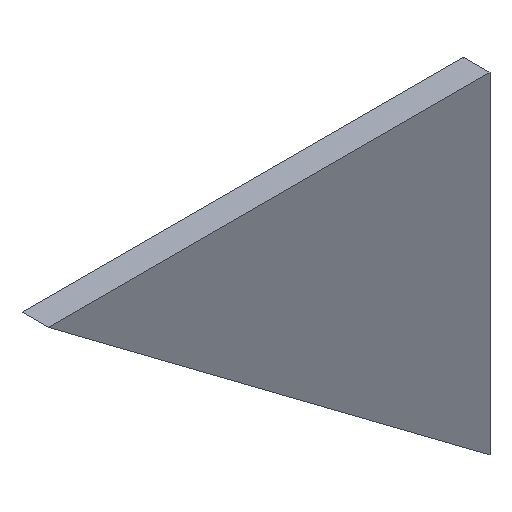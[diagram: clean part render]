
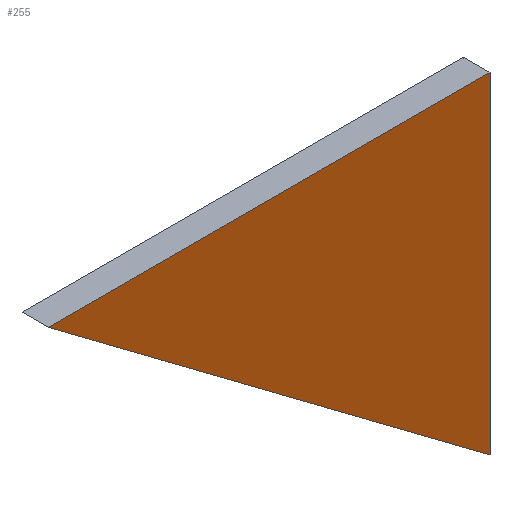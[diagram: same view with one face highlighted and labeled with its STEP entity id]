
A CAD part, isometric view. The second image highlights one B-rep face of the part: STEP entity #255.
In plain terms, the highlighted planar face has unit normal (0, -1, 0).
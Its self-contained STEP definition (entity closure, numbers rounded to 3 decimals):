
#22 = VERTEX_POINT('',#23);
#23 = CARTESIAN_POINT('',(1533.,-1876.,3094.));
#32 = PLANE('',#33);
#33 = AXIS2_PLACEMENT_3D('',#34,#35,#36);
#34 = CARTESIAN_POINT('',(1533.,-1876.,3094.));
#35 = DIRECTION('',(0.,0.,-1.));
#36 = DIRECTION('',(1.,0.,0.));
#44 = PLANE('',#45);
#45 = AXIS2_PLACEMENT_3D('',#46,#47,#48);
#46 = CARTESIAN_POINT('',(1733.,-1876.,2944.));
#47 = DIRECTION('',(0.6,-0.,0.8));
#48 = DIRECTION('',(-0.8,0.,0.6));
#85 = VERTEX_POINT('',#86);
#86 = CARTESIAN_POINT('',(1733.,-1876.,3094.));
#100 = PLANE('',#101);
#101 = AXIS2_PLACEMENT_3D('',#102,#103,#104);
#102 = CARTESIAN_POINT('',(1733.,-1876.,3094.));
#103 = DIRECTION('',(-1.,0.,0.));
#104 = DIRECTION('',(0.,0.,-1.));
#112 = EDGE_CURVE('',#22,#85,#113,.T.);
#113 = SURFACE_CURVE('',#114,(#118,#125),.PCURVE_S1.);
#114 = LINE('',#115,#116);
#115 = CARTESIAN_POINT('',(1533.,-1876.,3094.));
#116 = VECTOR('',#117,1.);
#117 = DIRECTION('',(1.,0.,0.));
#118 = PCURVE('',#32,#119);
#119 = DEFINITIONAL_REPRESENTATION('',(#120),#124);
#120 = LINE('',#121,#122);
#121 = CARTESIAN_POINT('',(0.,0.));
#122 = VECTOR('',#123,1.);
#123 = DIRECTION('',(1.,0.));
#124 = ( GEOMETRIC_REPRESENTATION_CONTEXT(2) 
PARAMETRIC_REPRESENTATION_CONTEXT() REPRESENTATION_CONTEXT('2D SPACE',''
  ) );
#125 = PCURVE('',#126,#131);
#126 = PLANE('',#127);
#127 = AXIS2_PLACEMENT_3D('',#128,#129,#130);
#128 = CARTESIAN_POINT('',(1658.,-1876.,3044.));
#129 = DIRECTION('',(0.,1.,0.));
#130 = DIRECTION('',(0.,-0.,1.));
#131 = DEFINITIONAL_REPRESENTATION('',(#132),#136);
#132 = LINE('',#133,#134);
#133 = CARTESIAN_POINT('',(50.,-125.));
#134 = VECTOR('',#135,1.);
#135 = DIRECTION('',(0.,1.));
#136 = ( GEOMETRIC_REPRESENTATION_CONTEXT(2) 
PARAMETRIC_REPRESENTATION_CONTEXT() REPRESENTATION_CONTEXT('2D SPACE',''
  ) );
#166 = VERTEX_POINT('',#167);
#167 = CARTESIAN_POINT('',(1733.,-1876.,2944.));
#188 = EDGE_CURVE('',#85,#166,#189,.T.);
#189 = SURFACE_CURVE('',#190,(#194,#201),.PCURVE_S1.);
#190 = LINE('',#191,#192);
#191 = CARTESIAN_POINT('',(1733.,-1876.,3094.));
#192 = VECTOR('',#193,1.);
#193 = DIRECTION('',(0.,0.,-1.));
#194 = PCURVE('',#100,#195);
#195 = DEFINITIONAL_REPRESENTATION('',(#196),#200);
#196 = LINE('',#197,#198);
#197 = CARTESIAN_POINT('',(0.,-0.));
#198 = VECTOR('',#199,1.);
#199 = DIRECTION('',(1.,0.));
#200 = ( GEOMETRIC_REPRESENTATION_CONTEXT(2) 
PARAMETRIC_REPRESENTATION_CONTEXT() REPRESENTATION_CONTEXT('2D SPACE',''
  ) );
#201 = PCURVE('',#126,#202);
#202 = DEFINITIONAL_REPRESENTATION('',(#203),#207);
#203 = LINE('',#204,#205);
#204 = CARTESIAN_POINT('',(50.,75.));
#205 = VECTOR('',#206,1.);
#206 = DIRECTION('',(-1.,0.));
#207 = ( GEOMETRIC_REPRESENTATION_CONTEXT(2) 
PARAMETRIC_REPRESENTATION_CONTEXT() REPRESENTATION_CONTEXT('2D SPACE',''
  ) );
#235 = EDGE_CURVE('',#166,#22,#236,.T.);
#236 = SURFACE_CURVE('',#237,(#241,#248),.PCURVE_S1.);
#237 = LINE('',#238,#239);
#238 = CARTESIAN_POINT('',(1733.,-1876.,2944.));
#239 = VECTOR('',#240,1.);
#240 = DIRECTION('',(-0.8,0.,0.6));
#241 = PCURVE('',#44,#242);
#242 = DEFINITIONAL_REPRESENTATION('',(#243),#247);
#243 = LINE('',#244,#245);
#244 = CARTESIAN_POINT('',(0.,0.));
#245 = VECTOR('',#246,1.);
#246 = DIRECTION('',(1.,0.));
#247 = ( GEOMETRIC_REPRESENTATION_CONTEXT(2) 
PARAMETRIC_REPRESENTATION_CONTEXT() REPRESENTATION_CONTEXT('2D SPACE',''
  ) );
#248 = PCURVE('',#126,#249);
#249 = DEFINITIONAL_REPRESENTATION('',(#250),#254);
#250 = LINE('',#251,#252);
#251 = CARTESIAN_POINT('',(-100.,75.));
#252 = VECTOR('',#253,1.);
#253 = DIRECTION('',(0.6,-0.8));
#254 = ( GEOMETRIC_REPRESENTATION_CONTEXT(2) 
PARAMETRIC_REPRESENTATION_CONTEXT() REPRESENTATION_CONTEXT('2D SPACE',''
  ) );
#255 = ADVANCED_FACE('',(#256),#126,.F.);
#256 = FACE_BOUND('',#257,.F.);
#257 = EDGE_LOOP('',(#258,#259,#260));
#258 = ORIENTED_EDGE('',*,*,#112,.T.);
#259 = ORIENTED_EDGE('',*,*,#188,.T.);
#260 = ORIENTED_EDGE('',*,*,#235,.T.);
